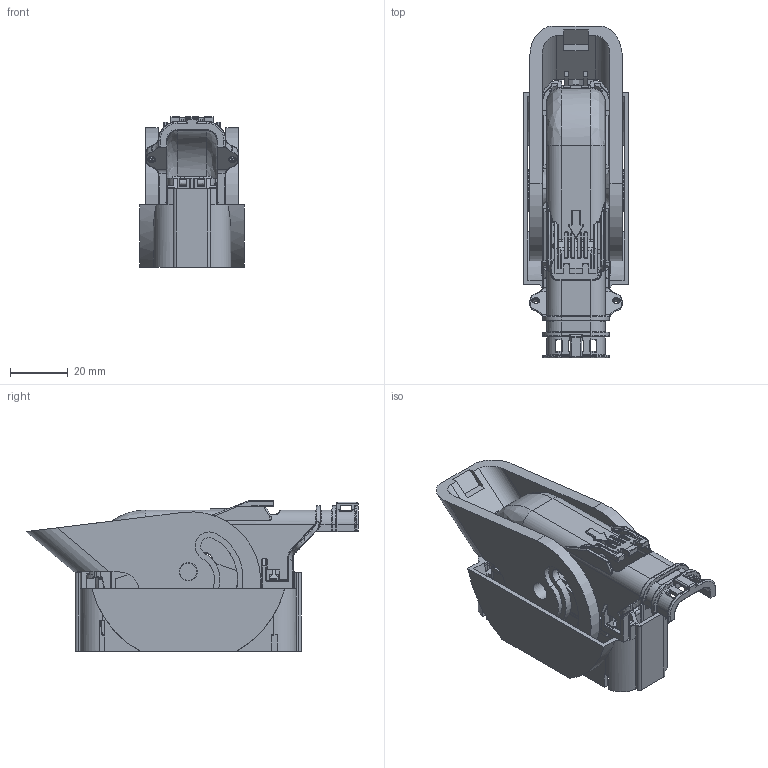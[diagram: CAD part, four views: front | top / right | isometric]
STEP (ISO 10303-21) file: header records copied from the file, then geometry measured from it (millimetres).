
FILE_DESCRIPTION((''), '1');
FILE_NAME('1928405168___38WAY__CABLE_EXIT_RIGHT ', '2007-01-19T11:33:51+01:00', (''), (''), 'CATIA.STEP INTERFACE', 'CATIA SOLUTIONS V4 RELEASE 2.4 FR 4.2.4', '');
FILE_SCHEMA(('AUTOMOTIVE_DESIGN { 1 2 10303 214 0 1 1 1 }'));
Length unit declared in the file: millimetre
Products named in the file (1): *MASTER
Bounding box: 36.4 x 115.41 x 52.4 mm (x, y, z)
Volume: 65789.4 mm3; surface area: 51934.5 mm2
Topology: 5 solids, 5 shells, 2333 faces, 6172 edges, 3689 vertices
Faces by surface type: plane 880, cylinder 806, bspline 590, extrusion 41, cone 16
Entity records: 97352 total; most frequent: CARTESIAN_POINT 44892, ORIENTED_EDGE 12072, DIRECTION 9087, EDGE_CURVE 6036, VERTEX_POINT 3685, VECTOR 3355, LINE 3314, AXIS2_PLACEMENT_3D 2866
